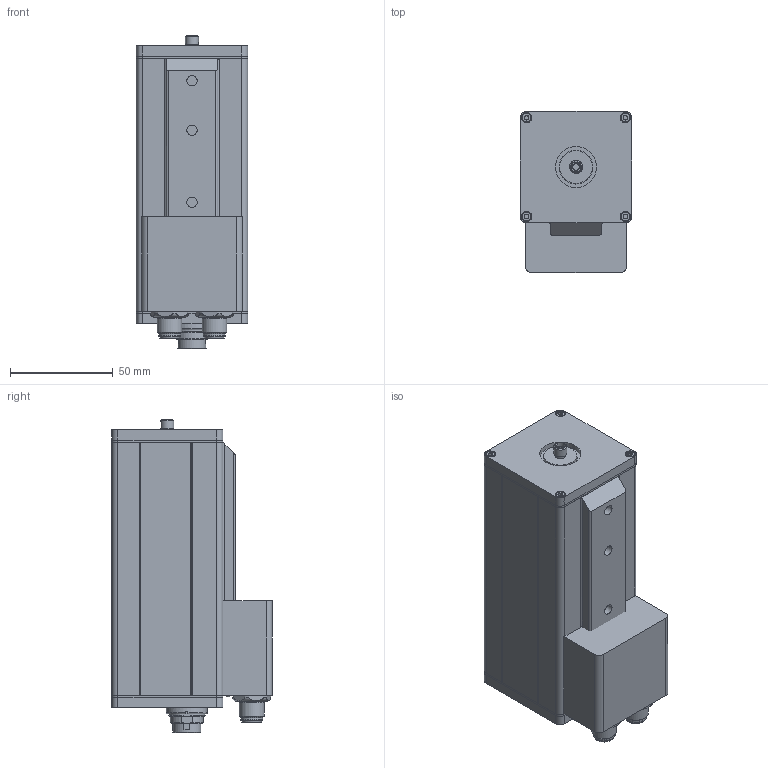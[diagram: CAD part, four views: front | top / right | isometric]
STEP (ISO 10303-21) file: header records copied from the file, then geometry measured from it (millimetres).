
FILE_DESCRIPTION((''),'2;1');
FILE_NAME('C:\Dokumente und Einstellungen\Dr.Maurer\Desktop\Inventor Matthias Kimmerle\KTRD1000\Step Dateien\KTRD1000 Lichtleiter Profibus.stp','2021-06-22T10:02:37',('Dr.Maurer'),(''),'Autodesk Inventor 10','Autodesk Inventor 10','');
FILE_SCHEMA(('AUTOMOTIVE_DESIGN { 1 0 10303 214 1 1 1 1 }'));
Length unit declared in the file: millimetre
Products named in the file (12): Gehäuse Lichtleiter Profibus; Gehaeuse; dichtung; rueckwand; stecker; frontLL; Innenteil Lichtleiter; 91290A102; Profibus; M12 Stecker; 1A_1
Assembly tree (20 placements, depth 4):
  Gehäuse Lichtleiter Profibus
    Gehaeuse
    dichtung  x2
    rueckwand
    stecker
    frontLL
    Innenteil Lichtleiter
    91290A102  x8
    Profibus
      Profibus
      M12 Stecker  x2
        1A_1
Bounding box: 54 x 78 x 152 mm (x, y, z)
Volume: 466706.5 mm3; surface area: 82197.1 mm2
Topology: 18 solids, 20 shells, 1229 faces, 3854 edges, 2752 vertices
Faces by surface type: plane 462, cylinder 420, bspline 155, cone 119, torus 50, sphere 23
Full cylindrical faces by diameter (mm): 0.6 x12, 0.9 x16, 1 x20, 1.05 x12, 1.6 x10, 2.5 x136, 2.9 x3, 3 x3, 3.18 x1, 4.5 x8, 4.7 x1, 5.3 x1, 6.35 x1, 8.35 x2, 9.5 x2, 9.7 x2, 9.85 x2, 10.7 x2, 12 x2, 13.5 x2, 13.6 x1, 14 x4, 15 x1, 16 x1, 16.5 x1, 20 x3
Entity records: 27085 total; most frequent: CARTESIAN_POINT 11423, ORIENTED_EDGE 3068, DIRECTION 2983, EDGE_CURVE 1534, AXIS2_PLACEMENT_3D 1173, VERTEX_POINT 1143, EDGE_LOOP 987, FACE_OUTER_BOUND 679
